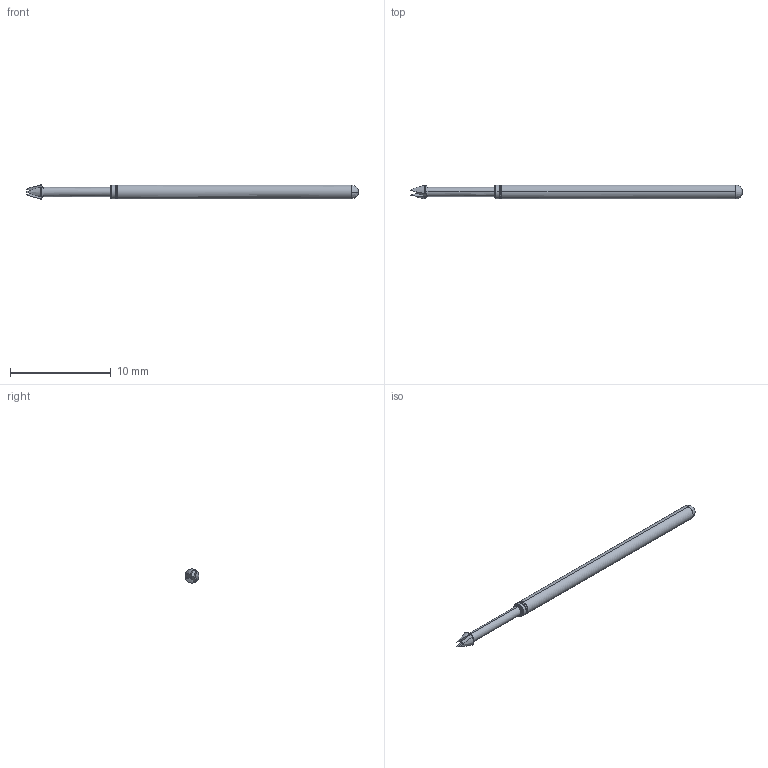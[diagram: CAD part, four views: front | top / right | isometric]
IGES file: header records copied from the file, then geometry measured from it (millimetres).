
Start section: SolidWorks IGES file using analytic representation for surfaces
Global section: file name: \\CODA-VM-SBS\RedirectedFolders\GeorgeD\My Documents\Coda\PA Series\Website\PA4V.IGS; native system: SolidWorks 2022; preprocessor: SolidWorks 2022; author: GeorgeD; date: 220715.104226; units: inch
Bounding box: 33.02 x 1.38 x 1.4 mm (x, y, z)
Surface area: 133.1 mm2 (no closed solid volume)
Topology: 0 solids, 0 shells, 37 faces, 234 edges, 234 vertices
Faces by surface type: bspline 37
